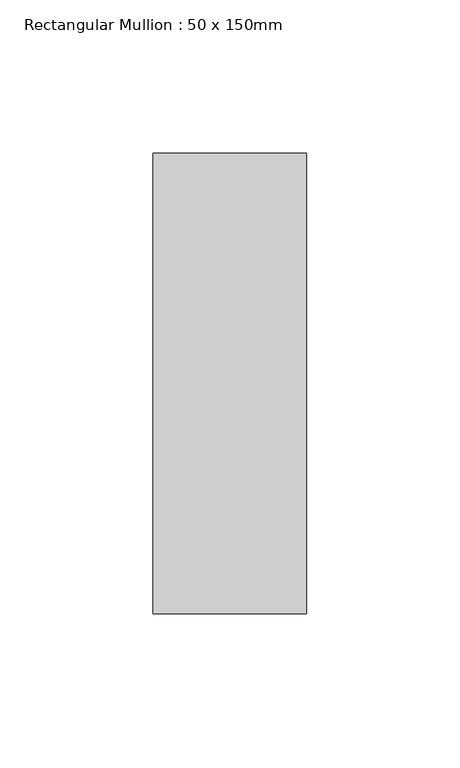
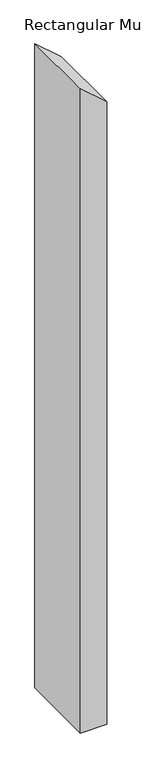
"""IFC4 building model written with IfcOpenShell, lengths in millimetres: member geometry, Rectangular Mullion : 50 x 150mm."""

from ifc_helpers import new_model, si_unit, frame, origin, place, context, project, spatial, polyline, outline, extrude, source, transform, mapped, element, save


def rectangular_mullion_50_x_150mm_5727d512(model_context):
    return source(origin(), model_context, "Body", "SweptSolid", [
        extrude(outline(polyline([(-88.415239, 25.0), (-44.5773716, -25.0), (-1339.3717561, -25.0), (-1339.3717561, 25.0), (-88.415239, 25.0)])), frame((0.0, -75.0, 0.0), z_axis=(0.0, 1.0, 0.0), x_axis=(0.0, 0.0, 1.0)), (0.0, 0.0, 1.0), 150.0),
    ])


if __name__ == "__main__":
    model = new_model("IFC4")
    model_context = context("Model", 3, world=origin())
    ifc_project = project(units=[si_unit("LENGTHUNIT", "METRE", prefix="MILLI")], contexts=[model_context])
    site = spatial("IfcSite", under=ifc_project)
    building = spatial("IfcBuilding", under=site)
    placement = place(None, origin())
    rectangular_mullion_50_x_150mm_shape = rectangular_mullion_50_x_150mm_5727d512(model_context)
    element("IfcMember", 1, ObjectType="Rectangular Mullion : 50 x 150mm", at=placement, inside=building, context=model_context, shape_type="MappedRepresentation", body=[
        mapped(rectangular_mullion_50_x_150mm_shape, transform((0.0, 0.0, 0.0), x_axis=(1.0, 0.0, 0.0), y_axis=(0.0, 1.0, 0.0), z_axis=(0.0, 0.0, 1.0))),
    ])
    save(model, "model.ifc")
